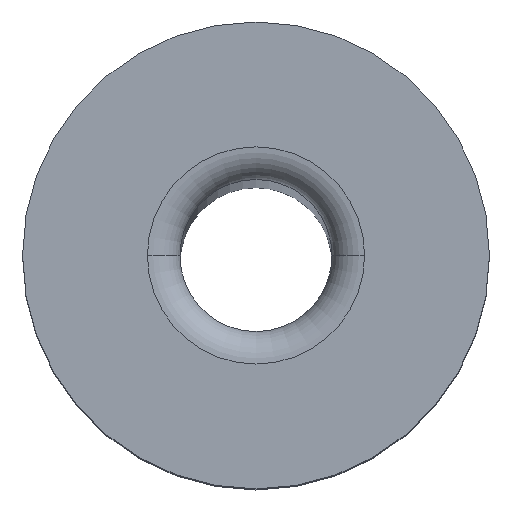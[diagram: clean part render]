
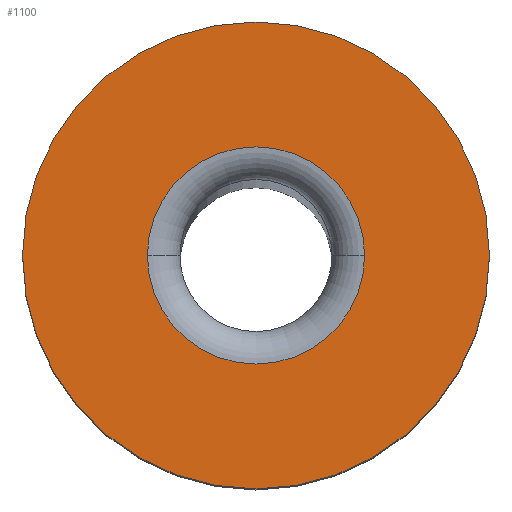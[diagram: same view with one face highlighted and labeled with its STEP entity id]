
A CAD part, top view. The second image highlights one B-rep face of the part: STEP entity #1100.
In plain terms, the highlighted planar face has unit normal (0, 0, 1).
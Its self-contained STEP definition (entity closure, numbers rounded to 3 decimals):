
#25 = FACE_OUTER_BOUND ( 'NONE', #676, .T. ) ;
#45 = CARTESIAN_POINT ( 'NONE',  ( 0., 0., -101.5 ) ) ;
#56 = CARTESIAN_POINT ( 'NONE',  ( -10., 0., -101.5 ) ) ;
#59 = DIRECTION ( 'NONE',  ( 1., 0., 0. ) ) ;
#77 = ORIENTED_EDGE ( 'NONE', *, *, #1058, .T. ) ;
#118 = EDGE_CURVE ( 'NONE', #186, #982, #274, .T. ) ;
#161 = CARTESIAN_POINT ( 'NONE',  ( -21.5, 0., -101.5 ) ) ;
#172 = AXIS2_PLACEMENT_3D ( 'NONE', #997, #1012, #59 ) ;
#186 = VERTEX_POINT ( 'NONE', #161 ) ;
#194 = FACE_BOUND ( 'NONE', #1131, .T. ) ;
#260 = CIRCLE ( 'NONE', #647, 10. ) ;
#274 = CIRCLE ( 'NONE', #406, 21.5 ) ;
#326 = ORIENTED_EDGE ( 'NONE', *, *, #565, .T. ) ;
#344 = CARTESIAN_POINT ( 'NONE',  ( 0., 0., -101.5 ) ) ;
#389 = CIRCLE ( 'NONE', #172, 10. ) ;
#406 = AXIS2_PLACEMENT_3D ( 'NONE', #45, #1109, #743 ) ;
#461 = DIRECTION ( 'NONE',  ( 0., 0., 1. ) ) ;
#498 = EDGE_CURVE ( 'NONE', #1036, #724, #389, .T. ) ;
#545 = DIRECTION ( 'NONE',  ( 1., 0., 0. ) ) ;
#565 = EDGE_CURVE ( 'NONE', #982, #186, #621, .T. ) ;
#612 = AXIS2_PLACEMENT_3D ( 'NONE', #642, #461, #545 ) ;
#621 = CIRCLE ( 'NONE', #612, 21.5 ) ;
#622 = CARTESIAN_POINT ( 'NONE',  ( 0., 0., -101.5 ) ) ;
#633 = DIRECTION ( 'NONE',  ( 1., 0., 0. ) ) ;
#642 = CARTESIAN_POINT ( 'NONE',  ( 0., 0., -101.5 ) ) ;
#647 = AXIS2_PLACEMENT_3D ( 'NONE', #622, #822, #633 ) ;
#676 = EDGE_LOOP ( 'NONE', ( #326, #1238 ) ) ;
#724 = VERTEX_POINT ( 'NONE', #852 ) ;
#737 = ORIENTED_EDGE ( 'NONE', *, *, #498, .T. ) ;
#739 = AXIS2_PLACEMENT_3D ( 'NONE', #344, #1005, #1108 ) ;
#743 = DIRECTION ( 'NONE',  ( 1., 0., 0. ) ) ;
#794 = CARTESIAN_POINT ( 'NONE',  ( 21.5, 0., -101.5 ) ) ;
#822 = DIRECTION ( 'NONE',  ( 0., 0., -1. ) ) ;
#852 = CARTESIAN_POINT ( 'NONE',  ( 10., 0., -101.5 ) ) ;
#982 = VERTEX_POINT ( 'NONE', #794 ) ;
#997 = CARTESIAN_POINT ( 'NONE',  ( 0., 0., -101.5 ) ) ;
#1005 = DIRECTION ( 'NONE',  ( 0., 0., 1. ) ) ;
#1012 = DIRECTION ( 'NONE',  ( 0., 0., -1. ) ) ;
#1036 = VERTEX_POINT ( 'NONE', #56 ) ;
#1058 = EDGE_CURVE ( 'NONE', #724, #1036, #260, .T. ) ;
#1100 = ADVANCED_FACE ( 'NONE', ( #194, #25 ), #1215, .T. ) ;
#1108 = DIRECTION ( 'NONE',  ( 1., 0., 0. ) ) ;
#1109 = DIRECTION ( 'NONE',  ( 0., 0., 1. ) ) ;
#1131 = EDGE_LOOP ( 'NONE', ( #77, #737 ) ) ;
#1215 = PLANE ( 'NONE',  #739 ) ;
#1238 = ORIENTED_EDGE ( 'NONE', *, *, #118, .T. ) ;
